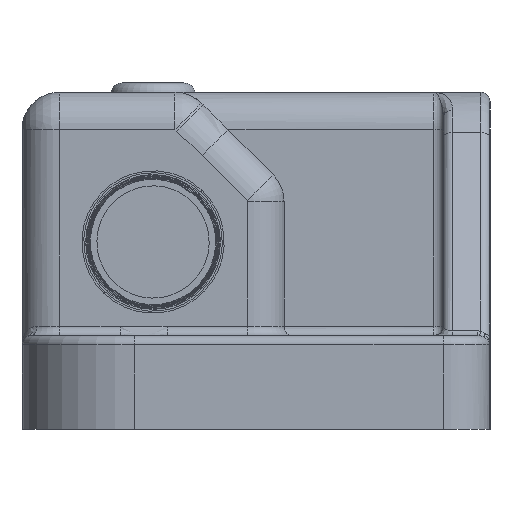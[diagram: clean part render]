
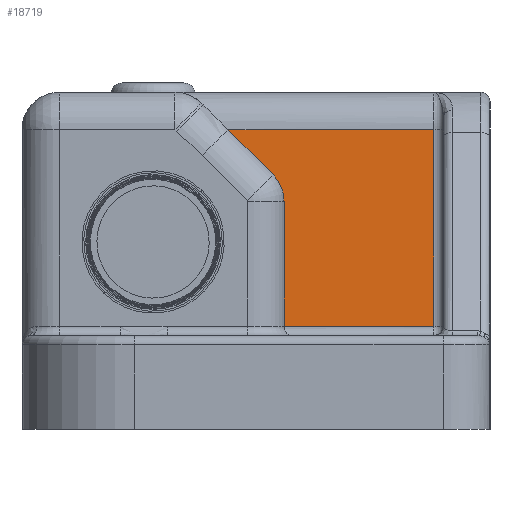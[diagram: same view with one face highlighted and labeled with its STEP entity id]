
A CAD part, left-side view. The second image highlights one B-rep face of the part: STEP entity #18719.
In plain terms, the highlighted planar face has unit normal (-1, 0, 0).
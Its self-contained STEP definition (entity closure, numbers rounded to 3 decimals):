
#125 = EDGE_CURVE ( 'NONE', #18410, #21775, #531, .T. ) ;
#329 = ORIENTED_EDGE ( 'NONE', *, *, #3431, .T. ) ;
#405 = LINE ( 'NONE', #22411, #4322 ) ;
#531 = LINE ( 'NONE', #13585, #23219 ) ;
#1832 = VERTEX_POINT ( 'NONE', #9682 ) ;
#1836 = EDGE_LOOP ( 'NONE', ( #28482, #5328, #329, #18825, #25466, #14671 ) ) ;
#2574 = DIRECTION ( 'NONE',  ( 0., 0., 1. ) ) ;
#3431 = EDGE_CURVE ( 'NONE', #1832, #18410, #26382, .T. ) ;
#3565 = EDGE_CURVE ( 'NONE', #18082, #18374, #23559, .T. ) ;
#4322 = VECTOR ( 'NONE', #8840, 1000. ) ;
#5293 = CARTESIAN_POINT ( 'NONE',  ( 10., 11.586, 13.586 ) ) ;
#5328 = ORIENTED_EDGE ( 'NONE', *, *, #15920, .T. ) ;
#6314 = FACE_OUTER_BOUND ( 'NONE', #1836, .T. ) ;
#7796 = CARTESIAN_POINT ( 'NONE',  ( 10., 3., 16. ) ) ;
#8089 = DIRECTION ( 'NONE',  ( -1., 0., 0. ) ) ;
#8840 = DIRECTION ( 'NONE',  ( 0., -1., 0. ) ) ;
#9267 = PLANE ( 'NONE',  #28548 ) ;
#9682 = CARTESIAN_POINT ( 'NONE',  ( 10., 3., 5.5 ) ) ;
#9862 = DIRECTION ( 'NONE',  ( 0., 0.707, 0.707 ) ) ;
#11177 = CIRCLE ( 'NONE', #22921, 2. ) ;
#11638 = DIRECTION ( 'NONE',  ( 0., 0., -1. ) ) ;
#12160 = LINE ( 'NONE', #5293, #16766 ) ;
#12212 = DIRECTION ( 'NONE',  ( 0., 0., 1. ) ) ;
#13585 = CARTESIAN_POINT ( 'NONE',  ( 10., 25., 16. ) ) ;
#13898 = CARTESIAN_POINT ( 'NONE',  ( 10., 3., -29.682 ) ) ;
#14671 = ORIENTED_EDGE ( 'NONE', *, *, #29364, .F. ) ;
#14771 = CARTESIAN_POINT ( 'NONE',  ( 10., 14., 16. ) ) ;
#15546 = EDGE_CURVE ( 'NONE', #28735, #21775, #12160, .T. ) ;
#15920 = EDGE_CURVE ( 'NONE', #18082, #1832, #405, .T. ) ;
#16766 = VECTOR ( 'NONE', #9862, 1000. ) ;
#17561 = VECTOR ( 'NONE', #12212, 1000. ) ;
#18082 = VERTEX_POINT ( 'NONE', #19714 ) ;
#18374 = VERTEX_POINT ( 'NONE', #25787 ) ;
#18410 = VERTEX_POINT ( 'NONE', #7796 ) ;
#18719 = ADVANCED_FACE ( 'NONE', ( #6314 ), #9267, .F. ) ;
#18825 = ORIENTED_EDGE ( 'NONE', *, *, #125, .T. ) ;
#19042 = CARTESIAN_POINT ( 'NONE',  ( 10., 11., 12.172 ) ) ;
#19714 = CARTESIAN_POINT ( 'NONE',  ( 10., 11., 5.5 ) ) ;
#20654 = CARTESIAN_POINT ( 'NONE',  ( 10., 25., -29.682 ) ) ;
#21672 = CARTESIAN_POINT ( 'NONE',  ( 10., 13., 12.172 ) ) ;
#21775 = VERTEX_POINT ( 'NONE', #14771 ) ;
#22411 = CARTESIAN_POINT ( 'NONE',  ( 10., 3., 5.5 ) ) ;
#22921 = AXIS2_PLACEMENT_3D ( 'NONE', #21672, #8089, #23914 ) ;
#23219 = VECTOR ( 'NONE', #27188, 1000. ) ;
#23559 = LINE ( 'NONE', #19042, #17561 ) ;
#23914 = DIRECTION ( 'NONE',  ( 0., 0., -1. ) ) ;
#25180 = DIRECTION ( 'NONE',  ( 1., 0., 0. ) ) ;
#25466 = ORIENTED_EDGE ( 'NONE', *, *, #15546, .F. ) ;
#25787 = CARTESIAN_POINT ( 'NONE',  ( 10., 11., 12.172 ) ) ;
#26382 = LINE ( 'NONE', #13898, #27077 ) ;
#27077 = VECTOR ( 'NONE', #2574, 1000. ) ;
#27188 = DIRECTION ( 'NONE',  ( 0., 1., 0. ) ) ;
#27682 = CARTESIAN_POINT ( 'NONE',  ( 10., 11.586, 13.586 ) ) ;
#28482 = ORIENTED_EDGE ( 'NONE', *, *, #3565, .F. ) ;
#28548 = AXIS2_PLACEMENT_3D ( 'NONE', #20654, #25180, #11638 ) ;
#28735 = VERTEX_POINT ( 'NONE', #27682 ) ;
#29364 = EDGE_CURVE ( 'NONE', #18374, #28735, #11177, .T. ) ;
